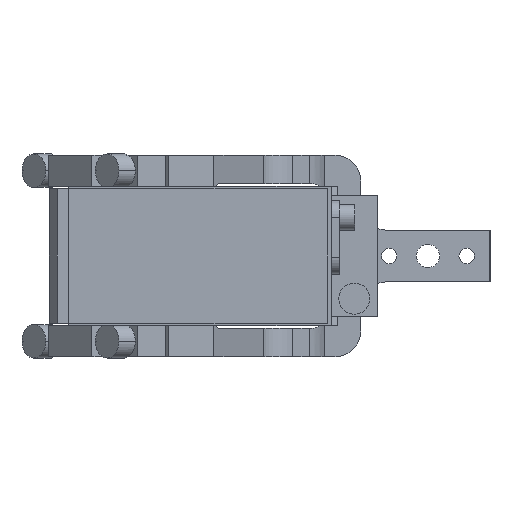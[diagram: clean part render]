
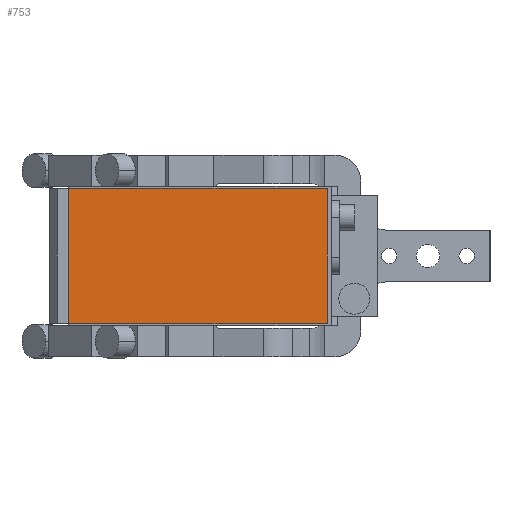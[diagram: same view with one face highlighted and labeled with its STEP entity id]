
A CAD part, front view. The second image highlights one B-rep face of the part: STEP entity #753.
In plain terms, the highlighted planar face has unit normal (0, -1, 0).
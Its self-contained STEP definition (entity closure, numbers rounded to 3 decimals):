
#702 = CARTESIAN_POINT ( 'NONE',  ( 81., -286.5, 26. ) ) ;
#753 = ADVANCED_FACE ( 'NONE', ( #4508 ), #7620, .T. ) ;
#1018 = CARTESIAN_POINT ( 'NONE',  ( -19., -286.5, 26. ) ) ;
#1182 = ORIENTED_EDGE ( 'NONE', *, *, #2155, .T. ) ;
#1307 = DIRECTION ( 'NONE',  ( 1., 0., 0. ) ) ;
#1471 = EDGE_CURVE ( 'NONE', #10611, #6880, #12922, .T. ) ;
#2155 = EDGE_CURVE ( 'NONE', #9160, #2673, #10995, .T. ) ;
#2171 = EDGE_CURVE ( 'NONE', #2673, #10611, #9867, .T. ) ;
#2201 = CARTESIAN_POINT ( 'NONE',  ( -19., -286.5, 26. ) ) ;
#2485 = CARTESIAN_POINT ( 'NONE',  ( -19., -286.5, 26. ) ) ;
#2508 = CARTESIAN_POINT ( 'NONE',  ( -19., -286.5, -26. ) ) ;
#2673 = VERTEX_POINT ( 'NONE', #10201 ) ;
#3372 = DIRECTION ( 'NONE',  ( 0., -1., 0. ) ) ;
#4491 = CARTESIAN_POINT ( 'NONE',  ( 81., -286.5, 26. ) ) ;
#4508 = FACE_OUTER_BOUND ( 'NONE', #11170, .T. ) ;
#4595 = LINE ( 'NONE', #2485, #12607 ) ;
#6344 = DIRECTION ( 'NONE',  ( 0., 0., -1. ) ) ;
#6528 = CARTESIAN_POINT ( 'NONE',  ( -19., -286.5, -26. ) ) ;
#6803 = ORIENTED_EDGE ( 'NONE', *, *, #1471, .T. ) ;
#6880 = VERTEX_POINT ( 'NONE', #2201 ) ;
#7620 = PLANE ( 'NONE',  #13966 ) ;
#7625 = VECTOR ( 'NONE', #1307, 1000. ) ;
#7945 = ORIENTED_EDGE ( 'NONE', *, *, #9508, .T. ) ;
#8750 = ORIENTED_EDGE ( 'NONE', *, *, #2171, .T. ) ;
#9160 = VERTEX_POINT ( 'NONE', #2508 ) ;
#9508 = EDGE_CURVE ( 'NONE', #6880, #9160, #4595, .T. ) ;
#9867 = LINE ( 'NONE', #4491, #12866 ) ;
#10201 = CARTESIAN_POINT ( 'NONE',  ( 81., -286.5, -26. ) ) ;
#10611 = VERTEX_POINT ( 'NONE', #702 ) ;
#10995 = LINE ( 'NONE', #6528, #7625 ) ;
#11167 = VECTOR ( 'NONE', #11703, 1000. ) ;
#11170 = EDGE_LOOP ( 'NONE', ( #7945, #1182, #8750, #6803 ) ) ;
#11703 = DIRECTION ( 'NONE',  ( -1., 0., 0. ) ) ;
#11974 = DIRECTION ( 'NONE',  ( 0., 0., -1. ) ) ;
#12607 = VECTOR ( 'NONE', #11974, 1000. ) ;
#12866 = VECTOR ( 'NONE', #13142, 1000. ) ;
#12922 = LINE ( 'NONE', #1018, #11167 ) ;
#12952 = CARTESIAN_POINT ( 'NONE',  ( 0., -286.5, 0. ) ) ;
#13142 = DIRECTION ( 'NONE',  ( 0., 0., 1. ) ) ;
#13966 = AXIS2_PLACEMENT_3D ( 'NONE', #12952, #3372, #6344 ) ;
